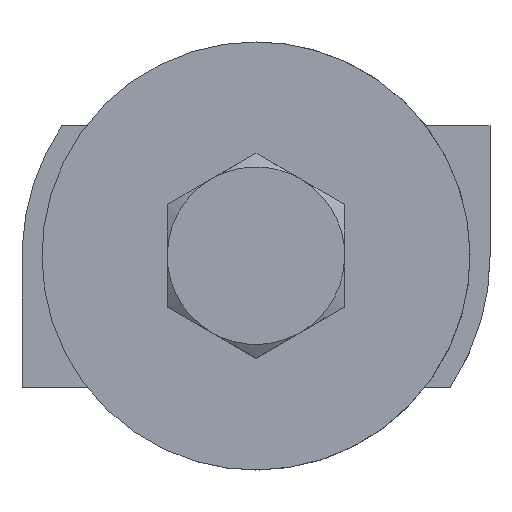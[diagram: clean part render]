
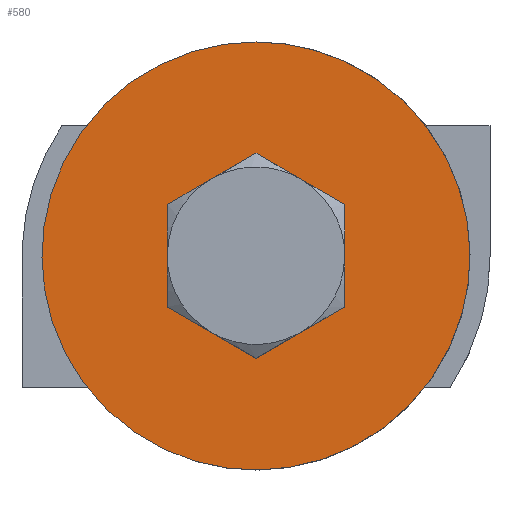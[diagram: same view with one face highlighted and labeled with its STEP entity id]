
A CAD part, top view. The second image highlights one B-rep face of the part: STEP entity #580.
In plain terms, the highlighted planar face has unit normal (0, 0, 1).
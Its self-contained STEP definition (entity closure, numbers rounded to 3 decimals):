
#25=FACE_BOUND($,#682,.T.);
#148=PLANE($,#1319);
#580=ADVANCED_FACE($,(#629,#25),#148,.T.);
#629=FACE_OUTER_BOUND($,#681,.T.);
#681=EDGE_LOOP($,(#851));
#682=EDGE_LOOP($,(#852));
#851=ORIENTED_EDGE($,*,*,#1024,.T.);
#852=ORIENTED_EDGE($,*,*,#1025,.T.);
#1024=EDGE_CURVE($,#1176,#1176,#1270,.T.);
#1025=EDGE_CURVE($,#1177,#1177,#1271,.T.);
#1176=VERTEX_POINT($,#7524);
#1177=VERTEX_POINT($,#7525);
#1270=(
BOUNDED_CURVE()
B_SPLINE_CURVE(2,(#7505,#7506,#7507,#7508,#7509,#7510,#7511,#7512,#7513),
.UNSPECIFIED.,.T.,.F.)
B_SPLINE_CURVE_WITH_KNOTS((3,2,2,2,3),(0.,20.42,40.841,
61.261,81.681),.UNSPECIFIED.)
CURVE()
GEOMETRIC_REPRESENTATION_ITEM()
RATIONAL_B_SPLINE_CURVE((1.,0.707,1.,0.707,1.,0.707,
1.,0.707,1.))
REPRESENTATION_ITEM($)
);
#1271=(
BOUNDED_CURVE()
B_SPLINE_CURVE(2,(#7514,#7515,#7516,#7517,#7518,#7519,#7520,#7521,#7522),
.UNSPECIFIED.,.T.,.F.)
B_SPLINE_CURVE_WITH_KNOTS((3,2,2,2,3),(-20.106,-15.08,
-10.053,-5.027,0.),.UNSPECIFIED.)
CURVE()
GEOMETRIC_REPRESENTATION_ITEM()
RATIONAL_B_SPLINE_CURVE((1.,0.707,1.,0.707,1.,0.707,
1.,0.707,1.))
REPRESENTATION_ITEM($)
);
#1319=AXIS2_PLACEMENT_3D($,#7523,#1342,$);
#1342=DIRECTION($,(0.,0.,1.));
#7505=CARTESIAN_POINT($,(0.,13.13,25.509));
#7506=CARTESIAN_POINT($,(-13.13,13.13,25.509));
#7507=CARTESIAN_POINT($,(-13.13,0.,25.509));
#7508=CARTESIAN_POINT($,(-13.13,-13.13,25.509));
#7509=CARTESIAN_POINT($,(0.,-13.13,25.509));
#7510=CARTESIAN_POINT($,(13.13,-13.13,25.509));
#7511=CARTESIAN_POINT($,(13.13,0.,25.509));
#7512=CARTESIAN_POINT($,(13.13,13.13,25.509));
#7513=CARTESIAN_POINT($,(0.,13.13,25.509));
#7514=CARTESIAN_POINT($,(3.007,1.186,25.509));
#7515=CARTESIAN_POINT($,(4.192,-1.821,25.509));
#7516=CARTESIAN_POINT($,(1.186,-3.007,25.509));
#7517=CARTESIAN_POINT($,(-1.821,-4.192,25.509));
#7518=CARTESIAN_POINT($,(-3.007,-1.186,25.509));
#7519=CARTESIAN_POINT($,(-4.192,1.821,25.509));
#7520=CARTESIAN_POINT($,(-1.186,3.007,25.509));
#7521=CARTESIAN_POINT($,(1.821,4.192,25.509));
#7522=CARTESIAN_POINT($,(3.007,1.186,25.509));
#7523=CARTESIAN_POINT($,(-13.13,-13.13,25.509));
#7524=CARTESIAN_POINT($,(0.,13.13,25.509));
#7525=CARTESIAN_POINT($,(3.007,1.186,25.509));
